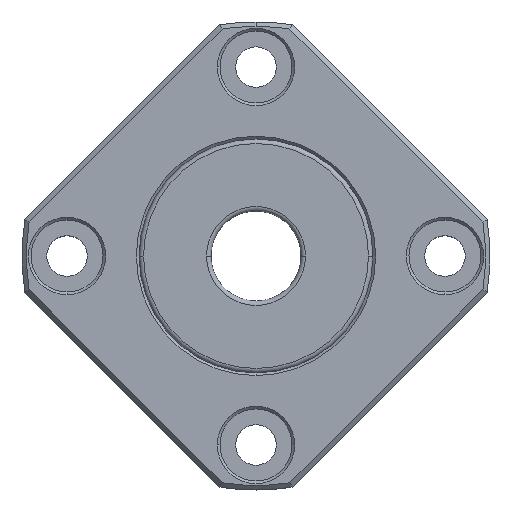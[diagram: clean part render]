
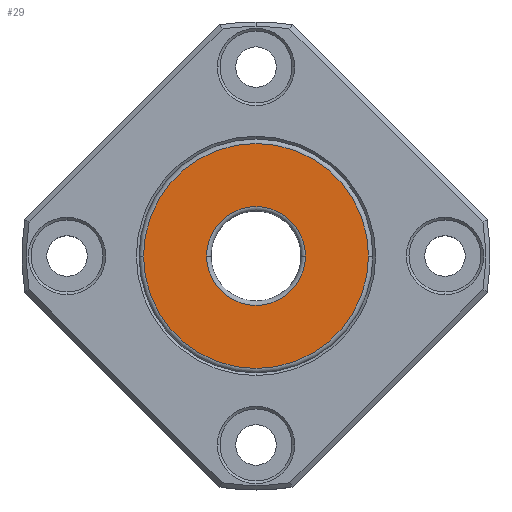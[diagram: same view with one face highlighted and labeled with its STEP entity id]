
A CAD part, top view. The second image highlights one B-rep face of the part: STEP entity #29.
In plain terms, the highlighted planar face has unit normal (0, 0, 1).
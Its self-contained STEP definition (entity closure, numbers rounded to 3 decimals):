
#12 = VERTEX_POINT ( 'NONE', #1653 ) ;
#29 = ADVANCED_FACE ( 'NONE', ( #1754, #1757 ), #1676, .T. ) ;
#88 = CIRCLE ( 'NONE', #2120, 12.5 ) ;
#92 = CIRCLE ( 'NONE', #2125, 12.5 ) ;
#94 = CIRCLE ( 'NONE', #1963, 5.5 ) ;
#128 = EDGE_CURVE ( 'NONE', #2406, #12, #88, .T. ) ;
#134 = EDGE_CURVE ( 'NONE', #12, #2406, #92, .T. ) ;
#140 = EDGE_CURVE ( 'NONE', #2407, #2402, #94, .T. ) ;
#278 = EDGE_CURVE ( 'NONE', #2402, #2407, #405, .T. ) ;
#405 = CIRCLE ( 'NONE', #2020, 5.5 ) ;
#669 = CARTESIAN_POINT ( 'NONE',  ( -5.5, 0., 4. ) ) ;
#673 = CARTESIAN_POINT ( 'NONE',  ( 12.5, 0., 4. ) ) ;
#674 = CARTESIAN_POINT ( 'NONE',  ( 5.5, 0., 4. ) ) ;
#952 = CARTESIAN_POINT ( 'NONE',  ( 0., 0., 4. ) ) ;
#953 = DIRECTION ( 'NONE',  ( 0., 0., 1. ) ) ;
#954 = DIRECTION ( 'NONE',  ( 1., 0., 0. ) ) ;
#971 = CARTESIAN_POINT ( 'NONE',  ( 0., 0., 4. ) ) ;
#972 = DIRECTION ( 'NONE',  ( 0., 0., 1. ) ) ;
#973 = DIRECTION ( 'NONE',  ( 1., 0., 0. ) ) ;
#993 = CARTESIAN_POINT ( 'NONE',  ( 0., 0., 4. ) ) ;
#994 = DIRECTION ( 'NONE',  ( 0., 0., -1. ) ) ;
#995 = DIRECTION ( 'NONE',  ( 1., 0., 0. ) ) ;
#1416 = CARTESIAN_POINT ( 'NONE',  ( 0., 0., 4. ) ) ;
#1417 = DIRECTION ( 'NONE',  ( 0., 0., -1. ) ) ;
#1418 = DIRECTION ( 'NONE',  ( 1., 0., 0. ) ) ;
#1464 = ORIENTED_EDGE ( 'NONE', *, *, #128, .T. ) ;
#1465 = ORIENTED_EDGE ( 'NONE', *, *, #140, .T. ) ;
#1467 = ORIENTED_EDGE ( 'NONE', *, *, #278, .T. ) ;
#1468 = ORIENTED_EDGE ( 'NONE', *, *, #134, .T. ) ;
#1600 = EDGE_LOOP ( 'NONE', ( #1465, #1467 ) ) ;
#1601 = EDGE_LOOP ( 'NONE', ( #1464, #1468 ) ) ;
#1653 = CARTESIAN_POINT ( 'NONE',  ( -12.5, 0., 4. ) ) ;
#1676 = PLANE ( 'NONE',  #2131 ) ;
#1677 = CARTESIAN_POINT ( 'NONE',  ( 0., 0., 4. ) ) ;
#1678 = DIRECTION ( 'NONE',  ( 0., 0., 1. ) ) ;
#1679 = DIRECTION ( 'NONE',  ( 1., 0., 0. ) ) ;
#1754 = FACE_BOUND ( 'NONE', #1600, .T. ) ;
#1757 = FACE_OUTER_BOUND ( 'NONE', #1601, .T. ) ;
#1963 = AXIS2_PLACEMENT_3D ( 'NONE', #993, #994, #995 ) ;
#2020 = AXIS2_PLACEMENT_3D ( 'NONE', #1416, #1417, #1418 ) ;
#2120 = AXIS2_PLACEMENT_3D ( 'NONE', #952, #953, #954 ) ;
#2125 = AXIS2_PLACEMENT_3D ( 'NONE', #971, #972, #973 ) ;
#2131 = AXIS2_PLACEMENT_3D ( 'NONE', #1677, #1678, #1679 ) ;
#2402 = VERTEX_POINT ( 'NONE', #669 ) ;
#2406 = VERTEX_POINT ( 'NONE', #673 ) ;
#2407 = VERTEX_POINT ( 'NONE', #674 ) ;
